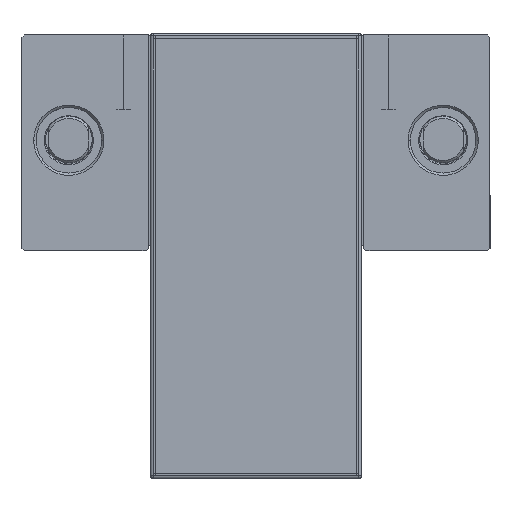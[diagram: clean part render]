
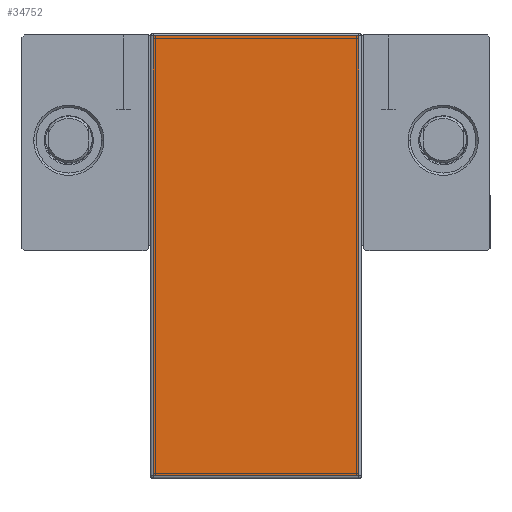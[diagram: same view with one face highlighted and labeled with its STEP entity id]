
A CAD part, top view. The second image highlights one B-rep face of the part: STEP entity #34752.
In plain terms, the highlighted planar face has unit normal (0, 0, 1).
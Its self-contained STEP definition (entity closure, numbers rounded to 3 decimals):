
#332 = LINE ( 'NONE', #3141, #17040 ) ;
#2693 = VERTEX_POINT ( 'NONE', #8973 ) ;
#3025 = CARTESIAN_POINT ( 'NONE',  ( -44., 44., 371. ) ) ;
#3141 = CARTESIAN_POINT ( 'NONE',  ( -44., -144., 371. ) ) ;
#4197 = LINE ( 'NONE', #5173, #33946 ) ;
#4225 = LINE ( 'NONE', #3025, #34933 ) ;
#5113 = ORIENTED_EDGE ( 'NONE', *, *, #6099, .T. ) ;
#5173 = CARTESIAN_POINT ( 'NONE',  ( 44., 44., 371. ) ) ;
#6016 = DIRECTION ( 'NONE',  ( -1., 0., 0. ) ) ;
#6099 = EDGE_CURVE ( 'NONE', #2693, #34315, #38217, .T. ) ;
#7434 = EDGE_CURVE ( 'NONE', #27841, #27756, #4225, .T. ) ;
#8973 = CARTESIAN_POINT ( 'NONE',  ( -44., -144., 371. ) ) ;
#8986 = DIRECTION ( 'NONE',  ( 0., 0., 1. ) ) ;
#9383 = VECTOR ( 'NONE', #34978, 1000. ) ;
#11361 = CARTESIAN_POINT ( 'NONE',  ( 44., -144., 371. ) ) ;
#15620 = FACE_OUTER_BOUND ( 'NONE', #26526, .T. ) ;
#17040 = VECTOR ( 'NONE', #26911, 1000. ) ;
#17405 = ORIENTED_EDGE ( 'NONE', *, *, #26063, .T. ) ;
#19996 = DIRECTION ( 'NONE',  ( 0., 1., 0. ) ) ;
#20525 = CARTESIAN_POINT ( 'NONE',  ( -44., 44., 371. ) ) ;
#20742 = EDGE_CURVE ( 'NONE', #27756, #2693, #332, .T. ) ;
#20915 = CARTESIAN_POINT ( 'NONE',  ( 44., 44., 371. ) ) ;
#26063 = EDGE_CURVE ( 'NONE', #34315, #27841, #4197, .T. ) ;
#26526 = EDGE_LOOP ( 'NONE', ( #27146, #5113, #17405, #38101 ) ) ;
#26782 = PLANE ( 'NONE',  #38377 ) ;
#26911 = DIRECTION ( 'NONE',  ( 0., -1., 0. ) ) ;
#27146 = ORIENTED_EDGE ( 'NONE', *, *, #20742, .T. ) ;
#27756 = VERTEX_POINT ( 'NONE', #20525 ) ;
#27841 = VERTEX_POINT ( 'NONE', #20915 ) ;
#28989 = CARTESIAN_POINT ( 'NONE',  ( 44., -144., 371. ) ) ;
#29781 = DIRECTION ( 'NONE',  ( 1., 0., 0. ) ) ;
#32655 = CARTESIAN_POINT ( 'NONE',  ( -44., -144., 371. ) ) ;
#33946 = VECTOR ( 'NONE', #19996, 1000. ) ;
#34315 = VERTEX_POINT ( 'NONE', #11361 ) ;
#34752 = ADVANCED_FACE ( 'NONE', ( #15620 ), #26782, .T. ) ;
#34933 = VECTOR ( 'NONE', #6016, 1000. ) ;
#34978 = DIRECTION ( 'NONE',  ( 1., 0., 0. ) ) ;
#38101 = ORIENTED_EDGE ( 'NONE', *, *, #7434, .T. ) ;
#38217 = LINE ( 'NONE', #28989, #9383 ) ;
#38377 = AXIS2_PLACEMENT_3D ( 'NONE', #32655, #8986, #29781 ) ;
